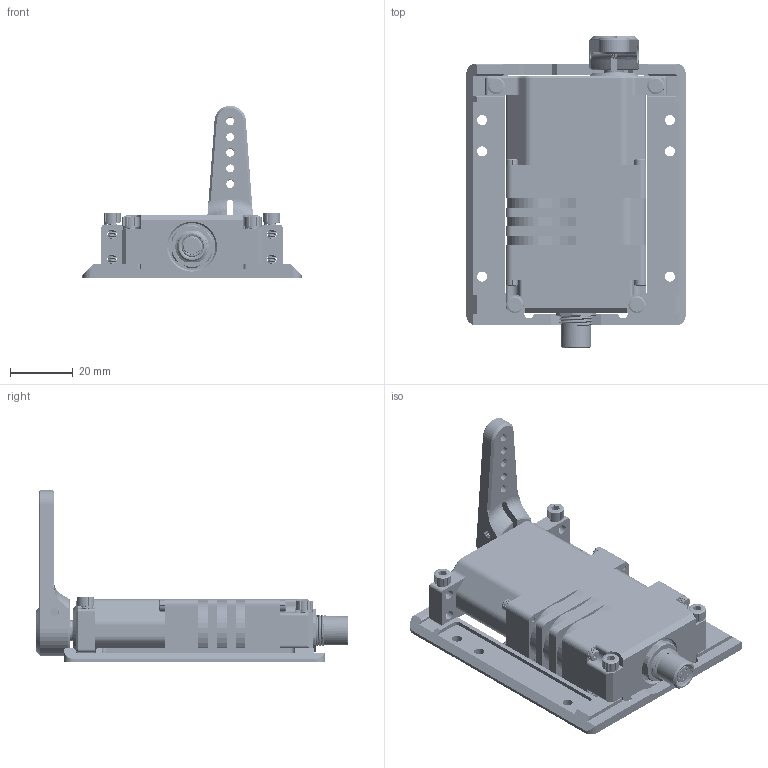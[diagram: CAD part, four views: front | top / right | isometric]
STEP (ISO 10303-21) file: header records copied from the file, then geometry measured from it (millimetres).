
FILE_DESCRIPTION((''),'2;1');
FILE_NAME('SG20BL_ASM','2024-10-10T',('sangmin.kim'),(''),'CREO PARAMETRIC BY PTC INC, 2018360','CREO PARAMETRIC BY PTC INC, 2018360','');
FILE_SCHEMA(('CONFIG_CONTROL_DESIGN'));
Products named in the file (20): SG20M_AL6061_120101020199; SG20T_AL6061_120101010193; SG20L_AL6061_120101030250; SG20SG5-HP-NCG_440_120212000797; SG20SG5H_ASM; SIGNAL_M8_BASE; SIGNAL_M8_NUT; SIGNAL_M8_O-RING; SIGNAL_M8_INNER_O-RING; SIGNAL_M8_ASM; 120201000114_CUP_POINT_M3XL3; 12XXXXX_SUS_HSH_M2XL10; SG20TR_AL6061_120106020173; MIS6_5-A_AL2011_120217000195; 120201000114_SC_M3XL3; 120201000128_SCM435_HSH_M3XL10; HSH_M3X15_SUS_120201000155; M3_DIN7980_WASHER_SUS304; 120201000137_SUS_HSH_M3XL18; SG20BL_ASM
Assembly tree (31 placements, depth 3):
  SG20BL_ASM
    SG20M_AL6061_120101020199
    SG20T_AL6061_120101010193
    SG20L_AL6061_120101030250
    SG20SG5H_ASM
      SG20SG5-HP-NCG_440_120212000797
    SIGNAL_M8_ASM
      SIGNAL_M8_BASE
      SIGNAL_M8_NUT
      SIGNAL_M8_O-RING
      SIGNAL_M8_INNER_O-RING
    120201000114_CUP_POINT_M3XL3
    12XXXXX_SUS_HSH_M2XL10  x8
    SG20TR_AL6061_120106020173
    MIS6_5-A_AL2011_120217000195
    120201000114_SC_M3XL3
    120201000128_SCM435_HSH_M3XL10
    HSH_M3X15_SUS_120201000155  x2
    M3_DIN7980_WASHER_SUS304  x4
    120201000137_SUS_HSH_M3XL18  x2
Bounding box: 70 x 99.95 x 55.1 mm (x, y, z)
Volume: 69498.5 mm3; surface area: 33745.1 mm2
Topology: 29 solids, 29 shells, 3323 faces, 9372 edges, 6134 vertices
Faces by surface type: cylinder 1427, plane 1416, bspline 280, cone 175, torus 19, extrusion 6
Entity records: 119232 total; most frequent: CARTESIAN_POINT 57090, ORIENTED_EDGE 10390, DIRECTION 8048, PRESENTATION_STYLE_ASSIGNMENT 5290, STYLED_ITEM 5251, CURVE_STYLE 5195, EDGE_CURVE 5195, VERTEX_POINT 3374
